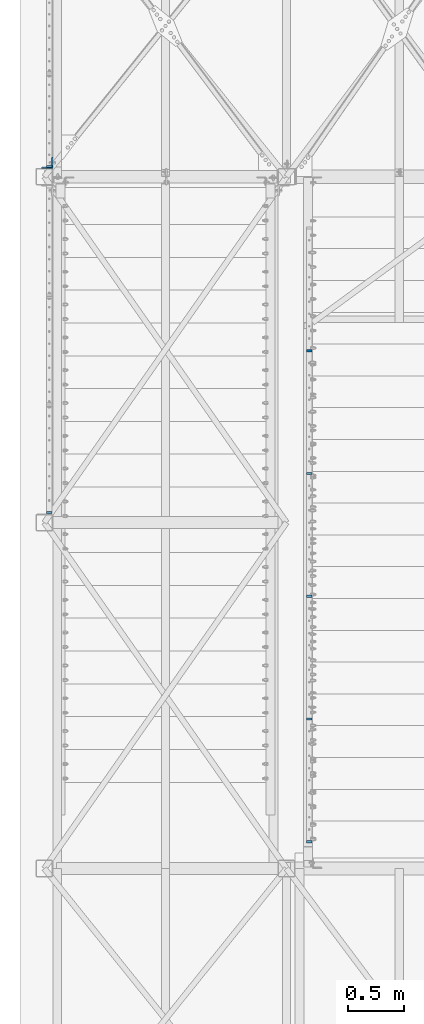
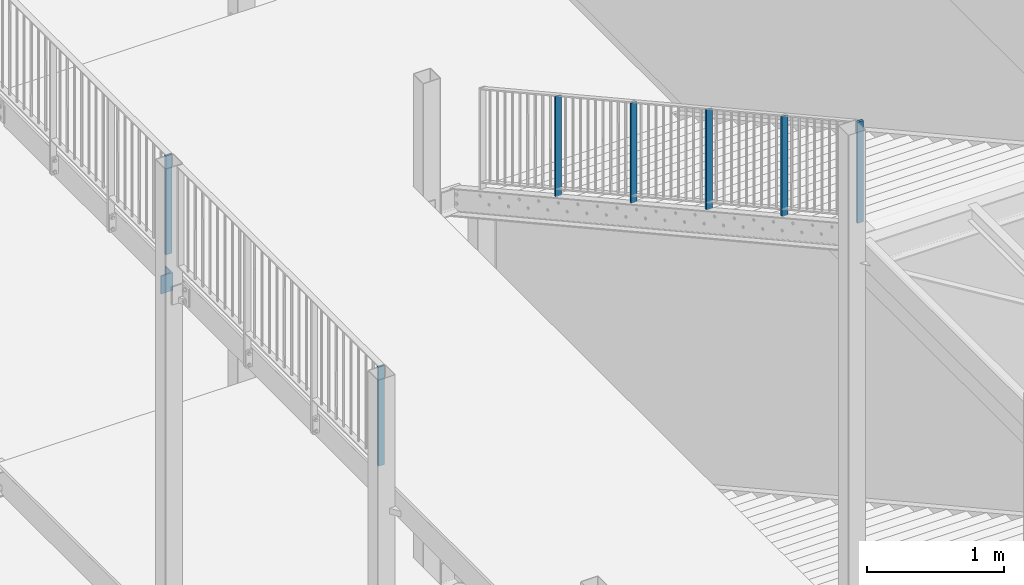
# One storey, part 15 of 78: 8 columns, 4 elements without a shape of their own.
"""IFC2X3 building model written with IfcOpenShell, lengths in millimetres."""

from ifc_helpers import new_model, si_unit, frame, origin_with_axes, origin_2d_with_axis, place, context, subcontext, project, spatial, rectangle, l_section, extrude, clip, halfspace, material, type_object, element, aggregate, save


model = new_model("IFC2X3")

# Units and contexts
model_context = context("Model", 3, precision=1e-05, world=origin_with_axes())
body_context = subcontext(model_context, "Body", "Model", "MODEL_VIEW")
ifc_project = project(units=[si_unit("LENGTHUNIT", "METRE", prefix="MILLI"), si_unit("AREAUNIT", "SQUARE_METRE"), si_unit("VOLUMEUNIT", "CUBIC_METRE"), si_unit("MASSUNIT", "GRAM", prefix="KILO"), si_unit("TIMEUNIT", "SECOND"), si_unit("PLANEANGLEUNIT", "RADIAN"), si_unit("SOLIDANGLEUNIT", "STERADIAN"), si_unit("THERMODYNAMICTEMPERATUREUNIT", "DEGREE_CELSIUS"), si_unit("LUMINOUSINTENSITYUNIT", "LUMEN")], contexts=[model_context])

# Site, building, storey
site_placement = place(None, origin_with_axes())
site = spatial("IfcSite", under=ifc_project, at=site_placement, Name="Site", CompositionType="ELEMENT")
building_placement = place(site_placement, origin_with_axes())
building = spatial("IfcBuilding", under=site, at=building_placement, Name="Undefined", CompositionType="ELEMENT")
storey_placement = place(building_placement, origin_with_axes())
storey = spatial("IfcBuildingStorey", under=building, at=storey_placement, Name="Undefined", CompositionType="ELEMENT", Elevation=0.0)

# Assembly, column
assembly_1_placement = place(storey_placement, origin_with_axes())
assembly_1 = element("IfcElementAssembly", 1, at=assembly_1_placement, inside=storey, Name="MAIN_COURANTE", AssemblyPlace="NOTDEFINED", PredefinedType="RIGID_FRAME")
ifc_material = material(Name="STEEL/S235JR")
column_type_1 = type_object("IfcColumnType", Name="PL20*50", PredefinedType="NOTDEFINED")
column_1_placement = place(assembly_1_placement, frame((-35341.43, 10198.0, 156810.04), z_axis=(0.0, 0.0, 1.0), x_axis=(1.0, 0.0, 0.0)))
column_1 = element("IfcColumn", 2, at=column_1_placement, type_object=column_type_1, material=ifc_material, Name="MONTANT", ObjectType="PL20*50", context=body_context, shape_type="Clipping", body=[
    clip(extrude(rectangle(XDim=20.0, YDim=50.0, at=origin_2d_with_axis()), frame((0.0, 0.0, 890.0), z_axis=(0.0, 0.0, -1.0), x_axis=(0.0, 1.0, 0.0)), (0.0, 0.0, 1.0), 890.0), halfspace(frame((0.0, 0.0, 880.0), z_axis=(0.0, 0.0, 1.0), x_axis=(-1.0, 0.0, 0.0)), False)),
])
aggregate(assembly_1, [column_1])

assembly_2_placement = place(storey_placement, origin_with_axes())
assembly_2 = element("IfcElementAssembly", 3, at=assembly_2_placement, inside=storey, Name="MAIN_COURANTE", AssemblyPlace="NOTDEFINED", PredefinedType="RIGID_FRAME")
column_2_placement = place(assembly_2_placement, frame((-35341.43, 7097.99999999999, 156810.04), z_axis=(0.0, 0.0, 1.0), x_axis=(1.0, 0.0, 0.0)))
column_2 = element("IfcColumn", 4, at=column_2_placement, type_object=column_type_1, material=ifc_material, Name="MONTANT", ObjectType="PL20*50", context=body_context, shape_type="Clipping", body=[
    clip(extrude(rectangle(XDim=20.0, YDim=50.0, at=origin_2d_with_axis()), frame((0.0, 0.0, 890.0), z_axis=(0.0, 0.0, -1.0), x_axis=(0.0, 1.0, 0.0)), (0.0, 0.0, 1.0), 890.0), halfspace(frame((0.0, 0.0, 880.0), z_axis=(0.0, 0.0, 1.0), x_axis=(-1.0, 0.0, 0.0)), False)),
])
aggregate(assembly_2, [column_2])

# Assembly, columns
assembly_3_placement = place(storey_placement, origin_with_axes())
assembly_3 = element("IfcElementAssembly", 5, at=assembly_3_placement, inside=storey, Name="MAIN_COURANTE", AssemblyPlace="NOTDEFINED", PredefinedType="RIGID_FRAME")
column_3_placement = place(assembly_3_placement, frame((-33012.8599999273, 4147.99999994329, 159944.776845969), z_axis=(0.0, 0.0, 1.0), x_axis=(1.0, 0.0, 0.0)))
column_3 = element("IfcColumn", 6, at=column_3_placement, type_object=column_type_1, material=ifc_material, Name="MONTANT", ObjectType="PL20*50", context=body_context, shape_type="SweptSolid", body=[
    extrude(rectangle(XDim=20.0, YDim=50.0, at=origin_2d_with_axis()), frame((0.0, 0.0, 900.0), z_axis=(0.0, 0.0, -1.0), x_axis=(0.0, 1.0, 0.0)), (0.0, 0.0, 1.0), 900.0),
])
column_4_placement = place(assembly_3_placement, frame((-33012.8599999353, 5247.99999992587, 159336.882108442), z_axis=(0.0, 0.0, 1.0), x_axis=(1.0, 0.0, 0.0)))
column_4 = element("IfcColumn", 7, at=column_4_placement, type_object=column_type_1, material=ifc_material, Name="MONTANT", ObjectType="PL20*50", context=body_context, shape_type="Clipping", body=[
    clip(extrude(rectangle(XDim=20.0, YDim=50.0, at=origin_2d_with_axis()), frame((0.0, 0.0, 900.0), z_axis=(0.0, 0.0, -1.0), x_axis=(0.0, 1.0, 0.0)), (0.0, 0.0, 1.0), 900.0), halfspace(frame((-1.84081727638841e-08, -2.41843058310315, 889.911083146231), z_axis=(0.0, 0.48368611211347, 0.875241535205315), x_axis=(-1.0, 0.0, 0.0)), False)),
])
column_5_placement = place(assembly_3_placement, frame((-33012.8599999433, 6347.99999990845, 158728.987370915), z_axis=(0.0, 0.0, 1.0), x_axis=(1.0, 0.0, 0.0)))
column_5 = element("IfcColumn", 8, at=column_5_placement, type_object=column_type_1, material=ifc_material, Name="MONTANT", ObjectType="PL20*50", context=body_context, shape_type="Clipping", body=[
    clip(extrude(rectangle(XDim=20.0, YDim=50.0, at=origin_2d_with_axis()), frame((0.0, 0.0, 900.0), z_axis=(0.0, 0.0, -1.0), x_axis=(0.0, 1.0, 0.0)), (0.0, 0.0, 1.0), 900.0), halfspace(frame((-1.84081727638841e-08, -2.41843058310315, 889.911083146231), z_axis=(0.0, 0.48368611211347, 0.875241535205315), x_axis=(-1.0, 0.0, 0.0)), False)),
])
column_6_placement = place(assembly_3_placement, frame((-33012.8599999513, 7447.99999989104, 158121.092633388), z_axis=(0.0, 0.0, 1.0), x_axis=(1.0, 0.0, 0.0)))
column_6 = element("IfcColumn", 9, at=column_6_placement, type_object=column_type_1, material=ifc_material, Name="MONTANT", ObjectType="PL20*50", context=body_context, shape_type="Clipping", body=[
    clip(extrude(rectangle(XDim=20.0, YDim=50.0, at=origin_2d_with_axis()), frame((0.0, 0.0, 900.0), z_axis=(0.0, 0.0, -1.0), x_axis=(0.0, 1.0, 0.0)), (0.0, 0.0, 1.0), 900.0), halfspace(frame((-1.84081727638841e-08, -2.41843058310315, 889.911083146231), z_axis=(0.0, 0.48368611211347, 0.875241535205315), x_axis=(-1.0, 0.0, 0.0)), False)),
])
column_7_placement = place(assembly_3_placement, frame((-33012.8599999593, 8547.99999987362, 157513.197895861), z_axis=(0.0, 0.0, 1.0), x_axis=(1.0, 0.0, 0.0)))
column_7 = element("IfcColumn", 10, at=column_7_placement, type_object=column_type_1, material=ifc_material, Name="MONTANT", ObjectType="PL20*50", context=body_context, shape_type="Clipping", body=[
    clip(extrude(rectangle(XDim=20.0, YDim=50.0, at=origin_2d_with_axis()), frame((0.0, 0.0, 900.0), z_axis=(0.0, 0.0, -1.0), x_axis=(0.0, 1.0, 0.0)), (0.0, 0.0, 1.0), 900.0), halfspace(frame((-1.84081727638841e-08, -2.41843058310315, 889.911083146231), z_axis=(0.0, 0.48368611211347, 0.875241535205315), x_axis=(-1.0, 0.0, 0.0)), False)),
])
aggregate(assembly_3, [column_3, column_4, column_5, column_6, column_7])

# Assembly, column
assembly_4_placement = place(storey_placement, origin_with_axes())
assembly_4 = element("IfcElementAssembly", 11, at=assembly_4_placement, inside=storey, AssemblyPlace="NOTDEFINED", PredefinedType="RIGID_FRAME")
column_type_2 = type_object("IfcColumnType", Name="L100*10", PredefinedType="NOTDEFINED")
column_8_placement = place(assembly_4_placement, frame((-35361.43, 10233.0, 156480.04), z_axis=(0.0, 0.0, 1.0), x_axis=(0.0, 1.0, 0.0)))
column_8 = element("IfcColumn", 12, at=column_8_placement, type_object=column_type_2, material=ifc_material, Name="CORNIERE", ObjectType="L100*10", context=body_context, shape_type="SweptSolid", body=[
    extrude(l_section(Depth=100.0, Width=100.0, Thickness=10.0, FilletRadius=12.0, EdgeRadius=6.0, at=origin_2d_with_axis()), frame((0.0, 0.0, 160.0), z_axis=(0.0, 0.0, -1.0), x_axis=(0.0, 1.0, 0.0)), (0.0, 0.0, 1.0), 160.0),
])
aggregate(assembly_4, [column_8])

save(model, "model.ifc")
